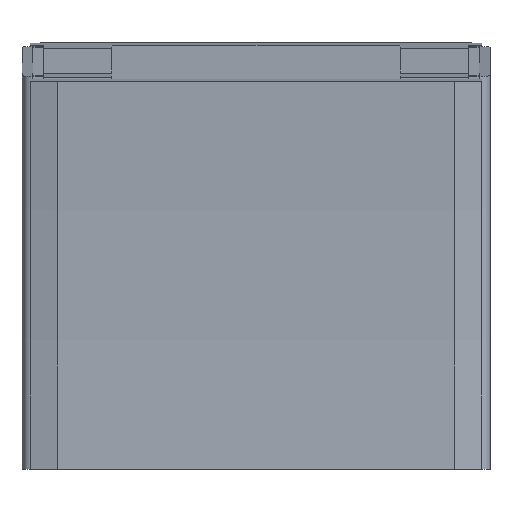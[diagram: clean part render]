
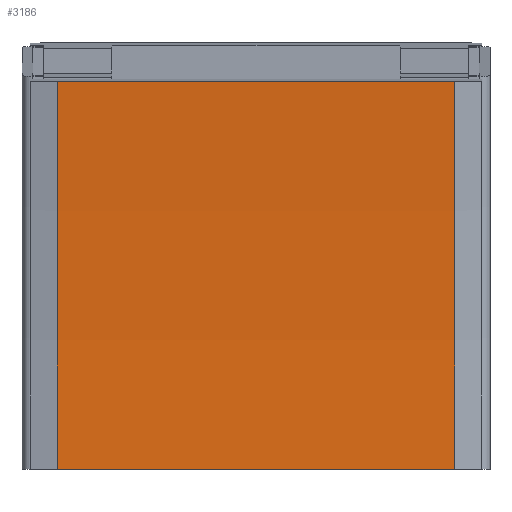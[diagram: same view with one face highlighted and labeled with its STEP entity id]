
A CAD part, front view. The second image highlights one B-rep face of the part: STEP entity #3186.
In plain terms, the highlighted cylindrical face has radius 817.5 mm (diameter 1635 mm), a partial arc.
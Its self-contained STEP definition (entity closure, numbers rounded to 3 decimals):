
#3128=CARTESIAN_POINT('',(36.5,-14.111,71.25));
#3129=VERTEX_POINT('',#3128);
#3136=CARTESIAN_POINT('',(36.5,-11.,0.0));
#3137=VERTEX_POINT('',#3136);
#3138=CARTESIAN_POINT('',(36.5,-828.5,0.));
#3139=DIRECTION('',(1.0,0.0,0.0));
#3140=DIRECTION('',(0.0,1.0,0.0));
#3141=AXIS2_PLACEMENT_3D('',#3138,#3139,#3140);
#3142=CIRCLE('',#3141,817.5);
#3143=EDGE_CURVE('',#3137,#3129,#3142,.T.);
#3155=CARTESIAN_POINT('',(0.,-828.5,0.));
#3156=DIRECTION('',(1.0,0.0,0.0));
#3157=DIRECTION('',(0.0,1.0,0.0));
#3158=AXIS2_PLACEMENT_3D('',#3155,#3156,#3157);
#3159=CYLINDRICAL_SURFACE('',#3158,817.5);
#3160=CARTESIAN_POINT('',(-36.5,-14.111,71.25));
#3161=VERTEX_POINT('',#3160);
#3162=CARTESIAN_POINT('',(36.5,-14.111,71.25));
#3163=DIRECTION('',(-1.0,0.0,0.0));
#3164=VECTOR('',#3163,73.);
#3165=LINE('',#3162,#3164);
#3166=EDGE_CURVE('',#3129,#3161,#3165,.T.);
#3167=ORIENTED_EDGE('',*,*,#3166,.T.);
#3168=CARTESIAN_POINT('',(-36.5,-11.,0.0));
#3169=VERTEX_POINT('',#3168);
#3170=CARTESIAN_POINT('',(-36.5,-828.5,0.));
#3171=DIRECTION('',(1.0,0.0,0.0));
#3172=DIRECTION('',(0.0,1.0,0.0));
#3173=AXIS2_PLACEMENT_3D('',#3170,#3171,#3172);
#3174=CIRCLE('',#3173,817.5);
#3175=EDGE_CURVE('',#3169,#3161,#3174,.T.);
#3176=ORIENTED_EDGE('',*,*,#3175,.F.);
#3177=CARTESIAN_POINT('',(-36.5,-11.,0.0));
#3178=DIRECTION('',(1.0,0.0,0.0));
#3179=VECTOR('',#3178,73.);
#3180=LINE('',#3177,#3179);
#3181=EDGE_CURVE('',#3169,#3137,#3180,.T.);
#3182=ORIENTED_EDGE('',*,*,#3181,.T.);
#3183=ORIENTED_EDGE('',*,*,#3143,.T.);
#3184=EDGE_LOOP('',(#3167,#3176,#3182,#3183));
#3185=FACE_OUTER_BOUND('',#3184,.T.);
#3186=ADVANCED_FACE('',(#3185),#3159,.F.);
